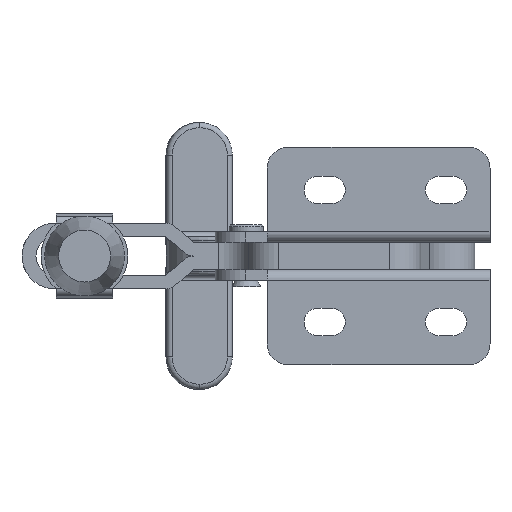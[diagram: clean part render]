
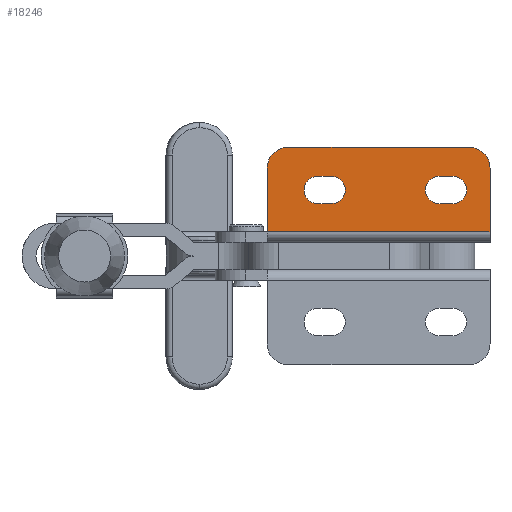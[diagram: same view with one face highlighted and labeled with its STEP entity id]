
A CAD part, front view. The second image highlights one B-rep face of the part: STEP entity #18246.
In plain terms, the highlighted planar face has unit normal (0, -1, 0).
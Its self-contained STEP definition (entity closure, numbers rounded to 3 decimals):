
#390=FACE_BOUND('',#5475,.T.);
#391=FACE_BOUND('',#5476,.T.);
#468=PLANE('',#19706);
#1151=LINE('',#31597,#2624);
#1155=LINE('',#31606,#2628);
#1156=LINE('',#31610,#2629);
#1157=LINE('',#31612,#2630);
#1158=LINE('',#31614,#2631);
#1159=LINE('',#31617,#2632);
#1160=LINE('',#31619,#2633);
#1161=LINE('',#31621,#2634);
#2624=VECTOR('',#21886,1000.);
#2628=VECTOR('',#21894,1000.);
#2629=VECTOR('',#21897,1000.);
#2630=VECTOR('',#21900,1000.);
#2631=VECTOR('',#21901,1000.);
#2632=VECTOR('',#21904,1000.);
#2633=VECTOR('',#21905,1000.);
#2634=VECTOR('',#21906,1000.);
#4351=FACE_OUTER_BOUND('',#5474,.T.);
#5474=EDGE_LOOP('',(#13105,#13106,#13107,#13108,#13109,#13110));
#5475=EDGE_LOOP('',(#13111,#13112,#13113,#13114));
#5476=EDGE_LOOP('',(#13115,#13116,#13117,#13118));
#6639=CIRCLE('',#19681,3.95);
#6641=CIRCLE('',#19684,3.95);
#6658=CIRCLE('',#19707,6.);
#6659=CIRCLE('',#19708,6.);
#6660=CIRCLE('',#19709,3.95);
#6661=CIRCLE('',#19710,3.95);
#7995=VERTEX_POINT('',#30717);
#7996=VERTEX_POINT('',#30718);
#7999=VERTEX_POINT('',#30726);
#8000=VERTEX_POINT('',#30727);
#8094=VERTEX_POINT('',#31595);
#8095=VERTEX_POINT('',#31596);
#8097=VERTEX_POINT('',#31604);
#8098=VERTEX_POINT('',#31605);
#8099=VERTEX_POINT('',#31607);
#8100=VERTEX_POINT('',#31609);
#8101=VERTEX_POINT('',#31613);
#8102=VERTEX_POINT('',#31615);
#8103=VERTEX_POINT('',#31618);
#8104=VERTEX_POINT('',#31620);
#9872=EDGE_CURVE('',#7995,#7996,#6639,.T.);
#9876=EDGE_CURVE('',#7999,#8000,#6641,.T.);
#9973=EDGE_CURVE('',#8094,#8095,#1151,.T.);
#9978=EDGE_CURVE('',#8097,#8098,#1155,.T.);
#9979=EDGE_CURVE('',#8097,#8099,#6658,.T.);
#9980=EDGE_CURVE('',#8100,#8099,#1156,.T.);
#9981=EDGE_CURVE('',#8100,#8094,#6659,.T.);
#9982=EDGE_CURVE('',#8095,#8098,#1157,.T.);
#9983=EDGE_CURVE('',#7996,#8101,#1158,.T.);
#9984=EDGE_CURVE('',#8101,#8102,#6660,.T.);
#9985=EDGE_CURVE('',#8102,#7995,#1159,.T.);
#9986=EDGE_CURVE('',#8103,#7999,#1160,.T.);
#9987=EDGE_CURVE('',#8000,#8104,#1161,.T.);
#9988=EDGE_CURVE('',#8104,#8103,#6661,.T.);
#13105=ORIENTED_EDGE('',*,*,#9978,.F.);
#13106=ORIENTED_EDGE('',*,*,#9979,.T.);
#13107=ORIENTED_EDGE('',*,*,#9980,.F.);
#13108=ORIENTED_EDGE('',*,*,#9981,.T.);
#13109=ORIENTED_EDGE('',*,*,#9973,.T.);
#13110=ORIENTED_EDGE('',*,*,#9982,.T.);
#13111=ORIENTED_EDGE('',*,*,#9983,.T.);
#13112=ORIENTED_EDGE('',*,*,#9984,.T.);
#13113=ORIENTED_EDGE('',*,*,#9985,.T.);
#13114=ORIENTED_EDGE('',*,*,#9872,.T.);
#13115=ORIENTED_EDGE('',*,*,#9986,.T.);
#13116=ORIENTED_EDGE('',*,*,#9876,.T.);
#13117=ORIENTED_EDGE('',*,*,#9987,.T.);
#13118=ORIENTED_EDGE('',*,*,#9988,.T.);
#18246=ADVANCED_FACE('',(#4351,#390,#391),#468,.F.);
#19681=AXIS2_PLACEMENT_3D('',#30719,#21795,#21796);
#19684=AXIS2_PLACEMENT_3D('',#30728,#21803,#21804);
#19706=AXIS2_PLACEMENT_3D('',#31603,#21892,#21893);
#19707=AXIS2_PLACEMENT_3D('',#31608,#21895,#21896);
#19708=AXIS2_PLACEMENT_3D('',#31611,#21898,#21899);
#19709=AXIS2_PLACEMENT_3D('',#31616,#21902,#21903);
#19710=AXIS2_PLACEMENT_3D('',#31622,#21907,#21908);
#21795=DIRECTION('center_axis',(0.,1.,0.));
#21796=DIRECTION('ref_axis',(0.,0.,1.));
#21803=DIRECTION('center_axis',(0.,1.,0.));
#21804=DIRECTION('ref_axis',(0.,0.,1.));
#21886=DIRECTION('',(0.,0.,-1.));
#21892=DIRECTION('center_axis',(0.,1.,0.));
#21893=DIRECTION('ref_axis',(0.,0.,1.));
#21894=DIRECTION('',(0.,0.,-1.));
#21895=DIRECTION('center_axis',(0.,-1.,0.));
#21896=DIRECTION('ref_axis',(0.,0.,1.));
#21897=DIRECTION('',(1.,0.,0.));
#21898=DIRECTION('center_axis',(0.,-1.,0.));
#21899=DIRECTION('ref_axis',(0.,0.,1.));
#21900=DIRECTION('',(1.,0.,0.));
#21901=DIRECTION('',(1.,0.,0.));
#21902=DIRECTION('center_axis',(0.,1.,0.));
#21903=DIRECTION('ref_axis',(0.,0.,1.));
#21904=DIRECTION('',(-1.,0.,0.));
#21905=DIRECTION('',(-1.,0.,0.));
#21906=DIRECTION('',(1.,0.,0.));
#21907=DIRECTION('center_axis',(0.,1.,0.));
#21908=DIRECTION('ref_axis',(0.,0.,1.));
#30717=CARTESIAN_POINT('',(12.11,0.,11.1));
#30718=CARTESIAN_POINT('',(12.113,0.,19.));
#30719=CARTESIAN_POINT('Origin',(12.112,0.,15.05));
#30726=CARTESIAN_POINT('',(47.096,0.,11.1));
#30727=CARTESIAN_POINT('',(47.125,0.,19.));
#30728=CARTESIAN_POINT('Origin',(47.11,0.,15.05));
#31595=CARTESIAN_POINT('',(-2.489,0.,21.35));
#31596=CARTESIAN_POINT('',(-2.489,0.,3.));
#31597=CARTESIAN_POINT('',(-2.489,0.,3.));
#31603=CARTESIAN_POINT('Origin',(-2.489,0.,3.));
#31604=CARTESIAN_POINT('',(61.811,0.,21.35));
#31605=CARTESIAN_POINT('',(61.811,0.,3.));
#31606=CARTESIAN_POINT('',(61.811,0.,3.));
#31607=CARTESIAN_POINT('',(55.811,0.,27.35));
#31608=CARTESIAN_POINT('Origin',(55.811,0.,21.35));
#31609=CARTESIAN_POINT('',(3.511,0.,27.35));
#31610=CARTESIAN_POINT('',(61.811,0.,27.35));
#31611=CARTESIAN_POINT('Origin',(3.511,0.,21.35));
#31612=CARTESIAN_POINT('',(-2.489,0.,3.));
#31613=CARTESIAN_POINT('',(16.097,0.,19.));
#31614=CARTESIAN_POINT('',(-2.489,0.,19.));
#31615=CARTESIAN_POINT('',(16.125,0.,11.1));
#31616=CARTESIAN_POINT('Origin',(16.11,0.,15.05));
#31617=CARTESIAN_POINT('',(-2.489,0.,11.1));
#31618=CARTESIAN_POINT('',(51.111,0.,11.1));
#31619=CARTESIAN_POINT('',(-2.489,0.,11.1));
#31620=CARTESIAN_POINT('',(51.108,0.,19.));
#31621=CARTESIAN_POINT('',(-2.489,0.,19.));
#31622=CARTESIAN_POINT('Origin',(51.111,0.,15.05));
